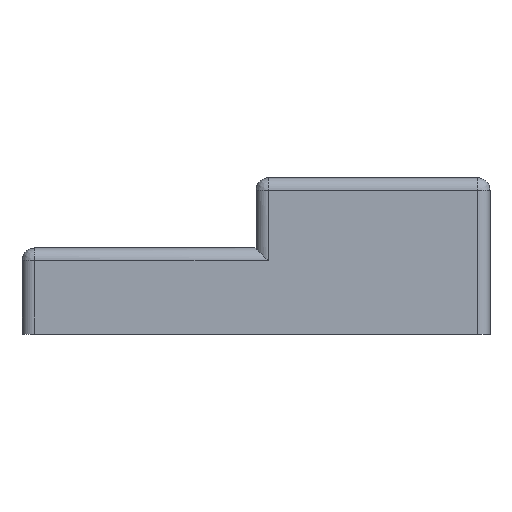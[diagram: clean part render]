
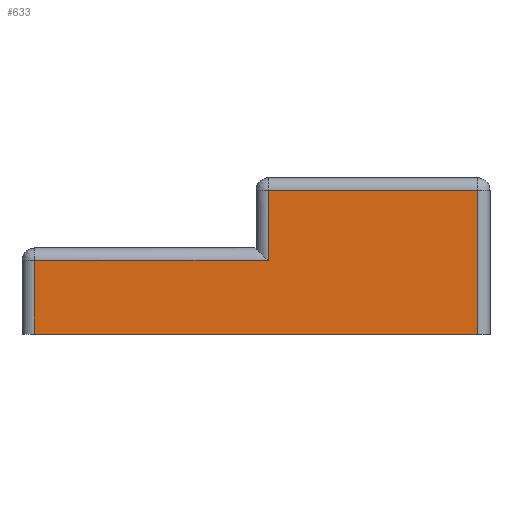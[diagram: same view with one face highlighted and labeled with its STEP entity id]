
A CAD part, front view. The second image highlights one B-rep face of the part: STEP entity #633.
In plain terms, the highlighted planar face has unit normal (0, -1, 0).
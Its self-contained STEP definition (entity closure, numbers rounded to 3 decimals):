
#574=FACE_OUTER_BOUND('',#919,.T.);
#633=ADVANCED_FACE('',(#574),#678,.T.);
#678=PLANE('',#1585);
#740=LINE('',#2209,#819);
#743=LINE('',#2234,#822);
#753=LINE('',#2258,#832);
#754=LINE('',#2260,#833);
#755=LINE('',#2262,#834);
#756=LINE('',#2264,#835);
#819=VECTOR('',#1802,1.);
#822=VECTOR('',#1813,1.);
#832=VECTOR('',#1837,1.);
#833=VECTOR('',#1840,1.);
#834=VECTOR('',#1841,1.);
#835=VECTOR('',#1842,1.);
#919=EDGE_LOOP('',(#1139,#1140,#1141,#1142,#1143,#1144));
#1139=ORIENTED_EDGE('',*,*,#1421,.T.);
#1140=ORIENTED_EDGE('',*,*,#1420,.T.);
#1141=ORIENTED_EDGE('',*,*,#1401,.T.);
#1142=ORIENTED_EDGE('',*,*,#1408,.T.);
#1143=ORIENTED_EDGE('',*,*,#1422,.F.);
#1144=ORIENTED_EDGE('',*,*,#1423,.T.);
#1286=VERTEX_POINT('',#2207);
#1288=VERTEX_POINT('',#2210);
#1292=VERTEX_POINT('',#2233);
#1299=VERTEX_POINT('',#2257);
#1300=VERTEX_POINT('',#2261);
#1301=VERTEX_POINT('',#2263);
#1401=EDGE_CURVE('',#1288,#1286,#740,.T.);
#1408=EDGE_CURVE('',#1286,#1292,#743,.T.);
#1420=EDGE_CURVE('',#1299,#1288,#753,.T.);
#1421=EDGE_CURVE('',#1300,#1299,#754,.T.);
#1422=EDGE_CURVE('',#1301,#1292,#755,.T.);
#1423=EDGE_CURVE('',#1301,#1300,#756,.T.);
#1585=AXIS2_PLACEMENT_3D('',#2265,#1843,#1844);
#1802=DIRECTION('',(-1.,0.,0.));
#1813=DIRECTION('',(0.,0.,-1.));
#1837=DIRECTION('',(0.,0.,-1.));
#1840=DIRECTION('',(-1.,0.,0.));
#1841=DIRECTION('',(-1.,0.,0.));
#1842=DIRECTION('',(0.,0.,1.));
#1843=DIRECTION('',(0.,-1.,0.));
#1844=DIRECTION('',(-1.,0.,0.));
#2207=CARTESIAN_POINT('',(-18.5,-14.25,3.));
#2209=CARTESIAN_POINT('',(-9.,-14.25,3.));
#2210=CARTESIAN_POINT('',(-9.,-14.25,3.));
#2233=CARTESIAN_POINT('',(-18.5,-14.25,0.));
#2234=CARTESIAN_POINT('',(-18.5,-14.25,3.));
#2257=CARTESIAN_POINT('',(-9.,-14.25,5.85));
#2258=CARTESIAN_POINT('',(-9.,-14.25,5.85));
#2260=CARTESIAN_POINT('',(-0.5,-14.25,5.85));
#2261=CARTESIAN_POINT('',(-0.5,-14.25,5.85));
#2262=CARTESIAN_POINT('',(-0.5,-14.25,0.));
#2263=CARTESIAN_POINT('',(-0.5,-14.25,0.));
#2264=CARTESIAN_POINT('',(-0.5,-14.25,0.));
#2265=CARTESIAN_POINT('',(0.95,-14.25,6.668));
